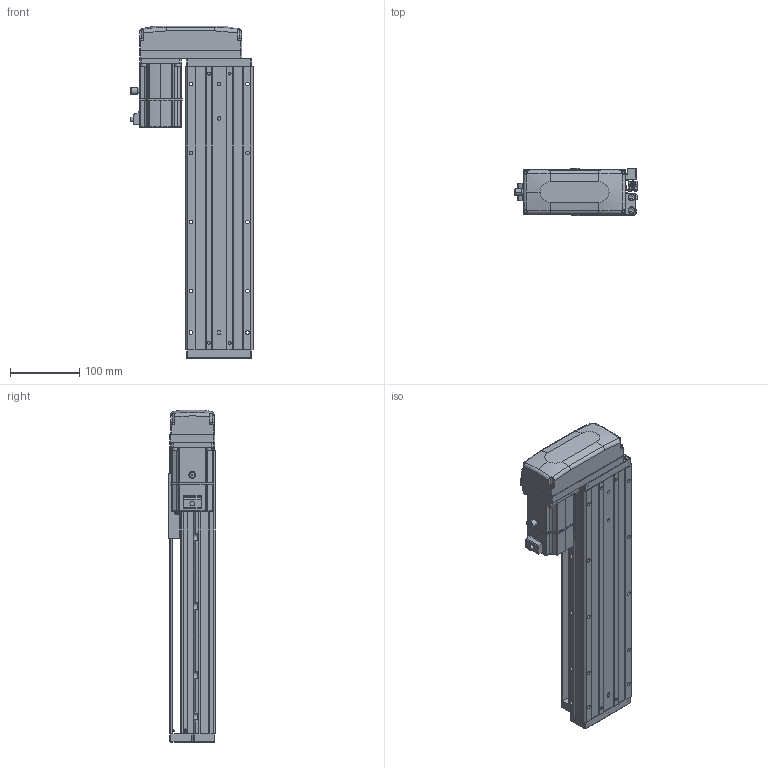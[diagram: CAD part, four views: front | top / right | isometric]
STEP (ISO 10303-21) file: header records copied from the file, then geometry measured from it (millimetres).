
FILE_DESCRIPTION (( 'STEP AP203' ), '1' );
FILE_NAME ('KTHA100-250-BR-M20-C4L.step', '2022-04-26T01:59:06', ( '微软用户' ), ( '微软中国' ), 'SwSTEP 2.0', 'SolidWorks 2020', '' );
FILE_SCHEMA (( 'CONFIG_CONTROL_DESIGN' ));
Length unit declared in the file: millimetre
Products named in the file (17): KTHA100-250-BR-M20-C4L; KTHA100-005; GBT70.1 M5℅16; GB¨uT 70.2-M3¡Á5_M3¡Á6; CTHA60-016; EE_SX911P_R; GBT 70.3-M3℅6; CTHA60-017; _X2_4E0983F1_X0_200W_1; KTHA100-001_410; CTHA60-021; CTHA86-015-1_CTHA86-015-2; KTHA100-002; GBT77-2000 M3×3; CTHA86-033; KTHA100-004; GBT 70.1-M3℅6
Assembly tree (57 placements, depth 2):
  KTHA100-250-BR-M20-C4L
    KTHA100-001_410
    KTHA100-002
    KTHA100-004
    KTHA100-005
    GB¨uT 70.2-M3¡Á5_M3¡Á6  x6
    EE_SX911P_R  x3
    CTHA60-017  x3
    CTHA60-021  x2
    GBT77-2000 M3×3  x6
    GBT 70.1-M3℅6  x10
    GBT70.1 M5℅16  x14
    CTHA60-016  x2
    GBT 70.3-M3℅6  x4
    _X2_4E0983F1_X0_200W_1
    CTHA86-015-1_CTHA86-015-2
    CTHA86-033
Bounding box: 178.52 x 68 x 481 mm (x, y, z)
Volume: 2446258.4 mm3; surface area: 408102.5 mm2
Topology: 60 solids, 60 shells, 2377 faces, 5665 edges, 3508 vertices
Faces by surface type: plane 1208, cylinder 659, cone 303, torus 116, bspline 75, sphere 16
Entity records: 40010 total; most frequent: CARTESIAN_POINT 8112, DIRECTION 6162, ORIENTED_EDGE 5942, EDGE_CURVE 2971, AXIS2_PLACEMENT_3D 2166, VERTEX_POINT 1868, VECTOR 1830, LINE 1830
